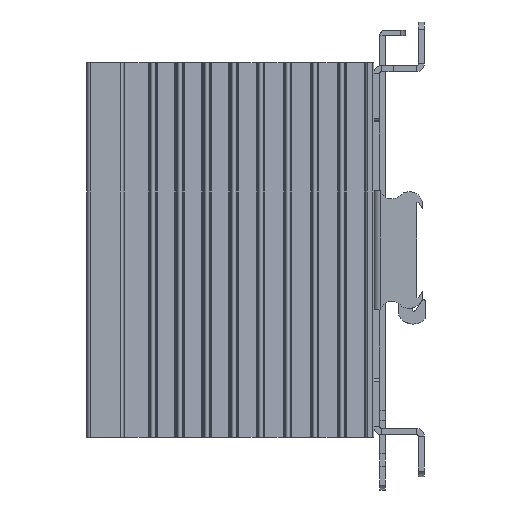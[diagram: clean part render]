
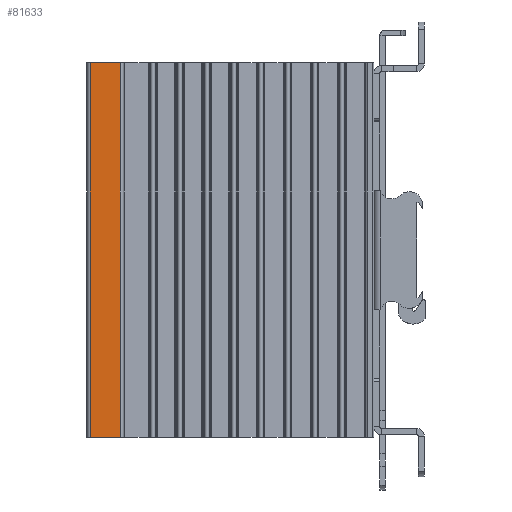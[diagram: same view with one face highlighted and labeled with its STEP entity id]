
A CAD part, left-side view. The second image highlights one B-rep face of the part: STEP entity #81633.
In plain terms, the highlighted planar face has unit normal (-1, 0, 0).
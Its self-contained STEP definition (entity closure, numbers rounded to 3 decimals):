
#1882 = DIRECTION ( 'NONE',  ( 0., -1., 0. ) ) ;
#6819 = EDGE_LOOP ( 'NONE', ( #7236, #40307, #42892, #33346 ) ) ;
#7236 = ORIENTED_EDGE ( 'NONE', *, *, #73780, .F. ) ;
#11000 = CARTESIAN_POINT ( 'NONE',  ( -42.868, 111.784, 143.984 ) ) ;
#11971 = EDGE_CURVE ( 'NONE', #44989, #16424, #81446, .T. ) ;
#12310 = CARTESIAN_POINT ( 'NONE',  ( -42.868, 27.784, 32.984 ) ) ;
#15397 = EDGE_CURVE ( 'NONE', #29840, #44989, #45366, .T. ) ;
#16424 = VERTEX_POINT ( 'NONE', #69303 ) ;
#16502 = CARTESIAN_POINT ( 'NONE',  ( -42.868, 111.784, 32.984 ) ) ;
#18693 = CARTESIAN_POINT ( 'NONE',  ( -42.868, 102.884, 143.984 ) ) ;
#20096 = DIRECTION ( 'NONE',  ( 0., -1., 0. ) ) ;
#28873 = EDGE_CURVE ( 'NONE', #16424, #41376, #69171, .T. ) ;
#29840 = VERTEX_POINT ( 'NONE', #11000 ) ;
#33346 = ORIENTED_EDGE ( 'NONE', *, *, #28873, .T. ) ;
#36461 = FACE_OUTER_BOUND ( 'NONE', #6819, .T. ) ;
#38989 = VECTOR ( 'NONE', #20096, 1000. ) ;
#39401 = VECTOR ( 'NONE', #74847, 1000. ) ;
#40307 = ORIENTED_EDGE ( 'NONE', *, *, #15397, .T. ) ;
#40511 = DIRECTION ( 'NONE',  ( 0., 0., -1. ) ) ;
#41376 = VERTEX_POINT ( 'NONE', #18693 ) ;
#42892 = ORIENTED_EDGE ( 'NONE', *, *, #11971, .T. ) ;
#42904 = CARTESIAN_POINT ( 'NONE',  ( -42.868, 102.884, 143.984 ) ) ;
#43081 = LINE ( 'NONE', #68467, #85605 ) ;
#44989 = VERTEX_POINT ( 'NONE', #16502 ) ;
#45366 = LINE ( 'NONE', #79113, #56558 ) ;
#56558 = VECTOR ( 'NONE', #40511, 1000. ) ;
#62131 = CARTESIAN_POINT ( 'NONE',  ( -42.868, 27.784, 32.984 ) ) ;
#68467 = CARTESIAN_POINT ( 'NONE',  ( -42.868, 27.784, 143.984 ) ) ;
#69171 = LINE ( 'NONE', #42904, #39401 ) ;
#69303 = CARTESIAN_POINT ( 'NONE',  ( -42.868, 102.884, 32.984 ) ) ;
#73596 = DIRECTION ( 'NONE',  ( -1., 0., 0. ) ) ;
#73780 = EDGE_CURVE ( 'NONE', #29840, #41376, #43081, .T. ) ;
#74847 = DIRECTION ( 'NONE',  ( 0., 0., 1. ) ) ;
#75268 = AXIS2_PLACEMENT_3D ( 'NONE', #12310, #73596, #85481 ) ;
#79113 = CARTESIAN_POINT ( 'NONE',  ( -42.868, 111.784, 32.984 ) ) ;
#81446 = LINE ( 'NONE', #62131, #38989 ) ;
#81633 = ADVANCED_FACE ( 'NONE', ( #36461 ), #84641, .T. ) ;
#84641 = PLANE ( 'NONE',  #75268 ) ;
#85481 = DIRECTION ( 'NONE',  ( 0., 1., 0. ) ) ;
#85605 = VECTOR ( 'NONE', #1882, 1000. ) ;
